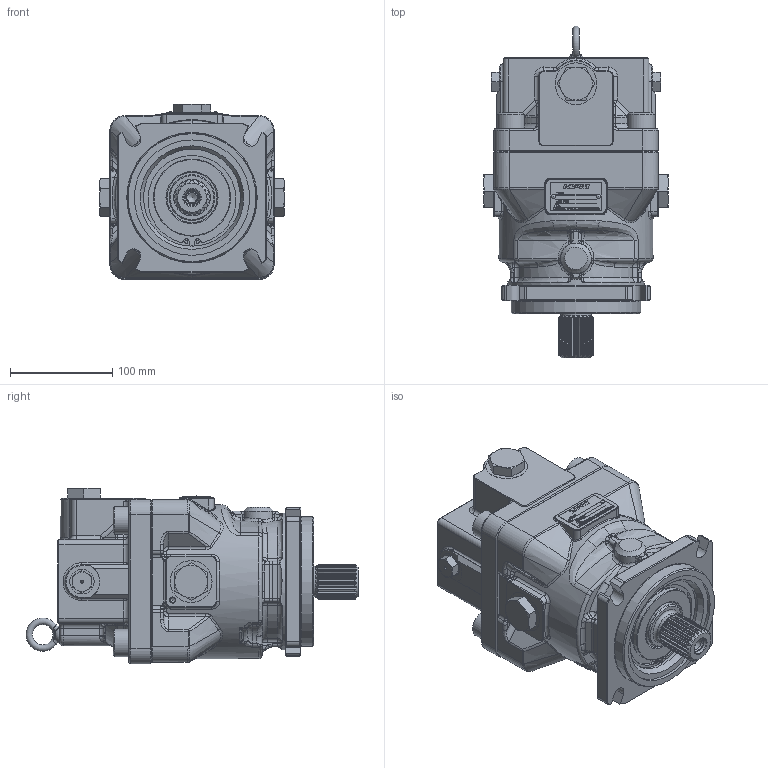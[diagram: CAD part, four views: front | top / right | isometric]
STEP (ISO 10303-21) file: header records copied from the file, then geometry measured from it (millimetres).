
FILE_DESCRIPTION(/* description */ (''),/* implementation_level */ '2;1');
FILE_NAME(/* name */ 'O:\80_個人\10_入業者\林\\X2\63D051FA30C730FC30BF\X0\\2020年度\2020.10.16-M7X85,112\X2\591689B3\X0\-第二回\M7X85AA14.stp',/* time_stamp */ '2020-10-05T15:29:46+09:00',/* author */ ('PG14415'),/* organization */ (''),/* preprocessor_version */ 'ST-DEVELOPER v16.5',/* originating_system */ 'Autodesk Inventor 2017',/* authorisation */ '');
FILE_SCHEMA (('AUTOMOTIVE_DESIGN { 1 0 10303 214 3 1 1 }'));
Products named in the file (1): Part5
Bounding box: 181.02 x 325.25 x 172.01 mm (x, y, z)
Volume: 4645699.5 mm3; surface area: 244560.4 mm2
Topology: 1 solids, 13 shells, 1848 faces, 4579 edges, 2820 vertices
Faces by surface type: plane 845, cylinder 371, bspline 312, cone 183, torus 102, sphere 35
Full cylindrical faces by diameter (mm): 2.13 x2, 2.2 x4, 2.5 x2, 3 x1, 5 x2, 6 x3, 6.8 x1, 8 x2, 9.144 x8, 10.106 x1, 11.11 x8, 12 x1, 14 x1, 18 x4, 20 x4, 24 x2, 25 x2, 27 x4, 29 x4, 30 x1, 41 x3, 45 x1, 49 x1, 74 x1, 75.5 x1, 95 x2, 98.5 x1, 113 x1, 127 x1, 134 x1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
Entity records: 62666 total; most frequent: CARTESIAN_POINT 19475, ORIENTED_EDGE 8714, DIRECTION 8102, EDGE_CURVE 4357, AXIS2_PLACEMENT_3D 2922, VERTEX_POINT 2751, LINE 2258, VECTOR 2258
